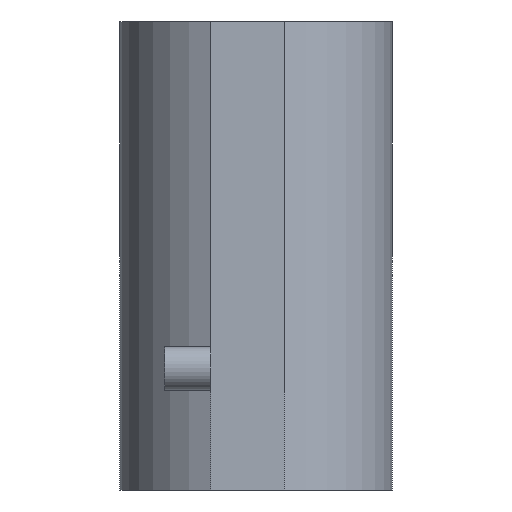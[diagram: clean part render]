
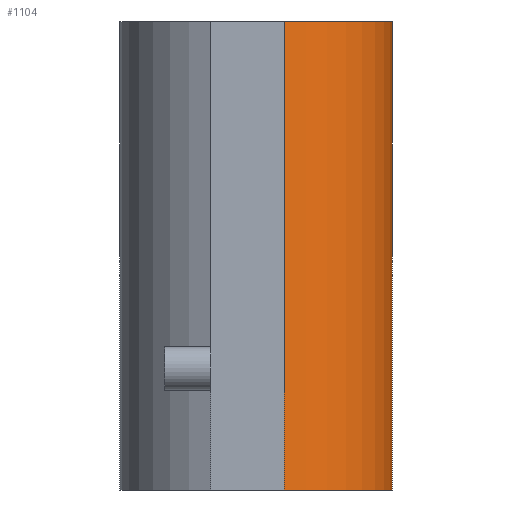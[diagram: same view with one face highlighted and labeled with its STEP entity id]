
A CAD part, left-side view. The second image highlights one B-rep face of the part: STEP entity #1104.
In plain terms, the highlighted cylindrical face has radius 5.6 mm (diameter 11.2 mm), a partial arc.
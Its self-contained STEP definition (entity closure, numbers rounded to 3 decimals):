
#44 = PLANE('',#45);
#45 = AXIS2_PLACEMENT_3D('',#46,#47,#48);
#46 = CARTESIAN_POINT('',(-48.,50.85,8.));
#47 = DIRECTION('',(-0.,1.,0.));
#48 = DIRECTION('',(0.,0.,1.));
#72 = PLANE('',#73);
#73 = AXIS2_PLACEMENT_3D('',#74,#75,#76);
#74 = CARTESIAN_POINT('',(-48.,50.85,8.));
#75 = DIRECTION('',(0.,0.,1.));
#76 = DIRECTION('',(1.,0.,-0.));
#126 = PLANE('',#127);
#127 = AXIS2_PLACEMENT_3D('',#128,#129,#130);
#128 = CARTESIAN_POINT('',(-48.,50.85,27.2));
#129 = DIRECTION('',(0.,0.,1.));
#130 = DIRECTION('',(1.,0.,-0.));
#142 = VERTEX_POINT('',#143);
#143 = CARTESIAN_POINT('',(-5.481,50.85,8.));
#166 = VERTEX_POINT('',#167);
#167 = CARTESIAN_POINT('',(-5.481,50.85,27.2));
#188 = EDGE_CURVE('',#142,#166,#189,.T.);
#189 = SURFACE_CURVE('',#190,(#194,#200),.PCURVE_S1.);
#190 = LINE('',#191,#192);
#191 = CARTESIAN_POINT('',(-5.481,50.85,8.));
#192 = VECTOR('',#193,1.);
#193 = DIRECTION('',(0.,0.,1.));
#194 = PCURVE('',#44,#195);
#195 = DEFINITIONAL_REPRESENTATION('',(#196),#199);
#196 = B_SPLINE_CURVE_WITH_KNOTS('',1,(#197,#198),.UNSPECIFIED.,.F.,.F.,
  (2,2),(0.,19.2),.PIECEWISE_BEZIER_KNOTS.);
#197 = CARTESIAN_POINT('',(0.,42.519));
#198 = CARTESIAN_POINT('',(19.2,42.519));
#199 = ( GEOMETRIC_REPRESENTATION_CONTEXT(2) 
PARAMETRIC_REPRESENTATION_CONTEXT() REPRESENTATION_CONTEXT('2D SPACE',''
  ) );
#200 = PCURVE('',#201,#206);
#201 = CYLINDRICAL_SURFACE('',#202,5.6);
#202 = AXIS2_PLACEMENT_3D('',#203,#204,#205);
#203 = CARTESIAN_POINT('',(0.,52.,8.));
#204 = DIRECTION('',(0.,0.,1.));
#205 = DIRECTION('',(1.,0.,-0.));
#206 = DEFINITIONAL_REPRESENTATION('',(#207),#210);
#207 = B_SPLINE_CURVE_WITH_KNOTS('',1,(#208,#209),.UNSPECIFIED.,.F.,.F.,
  (2,2),(0.,19.2),.PIECEWISE_BEZIER_KNOTS.);
#208 = CARTESIAN_POINT('',(3.348,0.));
#209 = CARTESIAN_POINT('',(3.348,19.2));
#210 = ( GEOMETRIC_REPRESENTATION_CONTEXT(2) 
PARAMETRIC_REPRESENTATION_CONTEXT() REPRESENTATION_CONTEXT('2D SPACE',''
  ) );
#462 = EDGE_CURVE('',#166,#463,#465,.T.);
#463 = VERTEX_POINT('',#464);
#464 = CARTESIAN_POINT('',(5.47,50.8,27.2));
#465 = SURFACE_CURVE('',#466,(#471,#478),.PCURVE_S1.);
#466 = CIRCLE('',#467,5.6);
#467 = AXIS2_PLACEMENT_3D('',#468,#469,#470);
#468 = CARTESIAN_POINT('',(0.,52.,27.2));
#469 = DIRECTION('',(0.,0.,1.));
#470 = DIRECTION('',(-0.979,-0.205,0.));
#471 = PCURVE('',#126,#472);
#472 = DEFINITIONAL_REPRESENTATION('',(#473),#477);
#473 = CIRCLE('',#474,5.6);
#474 = AXIS2_PLACEMENT_2D('',#475,#476);
#475 = CARTESIAN_POINT('',(48.,1.15));
#476 = DIRECTION('',(-0.979,-0.205));
#477 = ( GEOMETRIC_REPRESENTATION_CONTEXT(2) 
PARAMETRIC_REPRESENTATION_CONTEXT() REPRESENTATION_CONTEXT('2D SPACE',''
  ) );
#478 = PCURVE('',#201,#479);
#479 = DEFINITIONAL_REPRESENTATION('',(#480),#484);
#480 = LINE('',#481,#482);
#481 = CARTESIAN_POINT('',(3.348,19.2));
#482 = VECTOR('',#483,1.);
#483 = DIRECTION('',(1.,0.));
#484 = ( GEOMETRIC_REPRESENTATION_CONTEXT(2) 
PARAMETRIC_REPRESENTATION_CONTEXT() REPRESENTATION_CONTEXT('2D SPACE',''
  ) );
#501 = PLANE('',#502);
#502 = AXIS2_PLACEMENT_3D('',#503,#504,#505);
#503 = CARTESIAN_POINT('',(4.,50.8,0.));
#504 = DIRECTION('',(-0.,1.,0.));
#505 = DIRECTION('',(0.,0.,1.));
#943 = EDGE_CURVE('',#944,#142,#946,.T.);
#944 = VERTEX_POINT('',#945);
#945 = CARTESIAN_POINT('',(5.47,50.8,8.));
#946 = SURFACE_CURVE('',#947,(#952,#963),.PCURVE_S1.);
#947 = CIRCLE('',#948,5.6);
#948 = AXIS2_PLACEMENT_3D('',#949,#950,#951);
#949 = CARTESIAN_POINT('',(0.,52.,8.));
#950 = DIRECTION('',(0.,0.,-1.));
#951 = DIRECTION('',(-0.944,0.33,0.));
#952 = PCURVE('',#72,#953);
#953 = DEFINITIONAL_REPRESENTATION('',(#954),#962);
#954 = ( BOUNDED_CURVE() B_SPLINE_CURVE(2,(#955,#956,#957,#958,#959,#960
,#961),.UNSPECIFIED.,.T.,.F.) B_SPLINE_CURVE_WITH_KNOTS((1,2,2,2,2,1),(
    -2.094,0.,2.094,4.189,6.283,
8.378),.UNSPECIFIED.) CURVE() GEOMETRIC_REPRESENTATION_ITEM() 
RATIONAL_B_SPLINE_CURVE((1.,0.5,1.,0.5,1.,0.5,1.)) REPRESENTATION_ITEM(
  '') );
#955 = CARTESIAN_POINT('',(42.714,3.));
#956 = CARTESIAN_POINT('',(45.919,12.155));
#957 = CARTESIAN_POINT('',(52.245,4.802));
#958 = CARTESIAN_POINT('',(58.571,-2.55));
#959 = CARTESIAN_POINT('',(49.041,-4.352));
#960 = CARTESIAN_POINT('',(39.51,-6.155));
#961 = CARTESIAN_POINT('',(42.714,3.));
#962 = ( GEOMETRIC_REPRESENTATION_CONTEXT(2) 
PARAMETRIC_REPRESENTATION_CONTEXT() REPRESENTATION_CONTEXT('2D SPACE',''
  ) );
#963 = PCURVE('',#201,#964);
#964 = DEFINITIONAL_REPRESENTATION('',(#965),#969);
#965 = LINE('',#966,#967);
#966 = CARTESIAN_POINT('',(9.088,0.));
#967 = VECTOR('',#968,1.);
#968 = DIRECTION('',(-1.,-0.));
#969 = ( GEOMETRIC_REPRESENTATION_CONTEXT(2) 
PARAMETRIC_REPRESENTATION_CONTEXT() REPRESENTATION_CONTEXT('2D SPACE',''
  ) );
#1104 = ADVANCED_FACE('',(#1105),#201,.T.);
#1105 = FACE_BOUND('',#1106,.T.);
#1106 = EDGE_LOOP('',(#1107,#1108,#1127,#1128));
#1107 = ORIENTED_EDGE('',*,*,#943,.F.);
#1108 = ORIENTED_EDGE('',*,*,#1109,.T.);
#1109 = EDGE_CURVE('',#944,#463,#1110,.T.);
#1110 = SURFACE_CURVE('',#1111,(#1115,#1121),.PCURVE_S1.);
#1111 = LINE('',#1112,#1113);
#1112 = CARTESIAN_POINT('',(5.47,50.8,8.));
#1113 = VECTOR('',#1114,1.);
#1114 = DIRECTION('',(0.,0.,1.));
#1115 = PCURVE('',#201,#1116);
#1116 = DEFINITIONAL_REPRESENTATION('',(#1117),#1120);
#1117 = B_SPLINE_CURVE_WITH_KNOTS('',1,(#1118,#1119),.UNSPECIFIED.,.F.,
  .F.,(2,2),(0.,19.2),.PIECEWISE_BEZIER_KNOTS.);
#1118 = CARTESIAN_POINT('',(6.067,0.));
#1119 = CARTESIAN_POINT('',(6.067,19.2));
#1120 = ( GEOMETRIC_REPRESENTATION_CONTEXT(2) 
PARAMETRIC_REPRESENTATION_CONTEXT() REPRESENTATION_CONTEXT('2D SPACE',''
  ) );
#1121 = PCURVE('',#501,#1122);
#1122 = DEFINITIONAL_REPRESENTATION('',(#1123),#1126);
#1123 = B_SPLINE_CURVE_WITH_KNOTS('',1,(#1124,#1125),.UNSPECIFIED.,.F.,
  .F.,(2,2),(0.,19.2),.PIECEWISE_BEZIER_KNOTS.);
#1124 = CARTESIAN_POINT('',(8.,1.47));
#1125 = CARTESIAN_POINT('',(27.2,1.47));
#1126 = ( GEOMETRIC_REPRESENTATION_CONTEXT(2) 
PARAMETRIC_REPRESENTATION_CONTEXT() REPRESENTATION_CONTEXT('2D SPACE',''
  ) );
#1127 = ORIENTED_EDGE('',*,*,#462,.F.);
#1128 = ORIENTED_EDGE('',*,*,#188,.F.);
